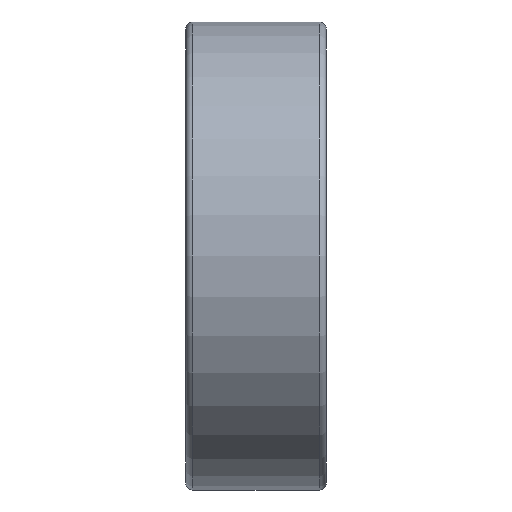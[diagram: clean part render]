
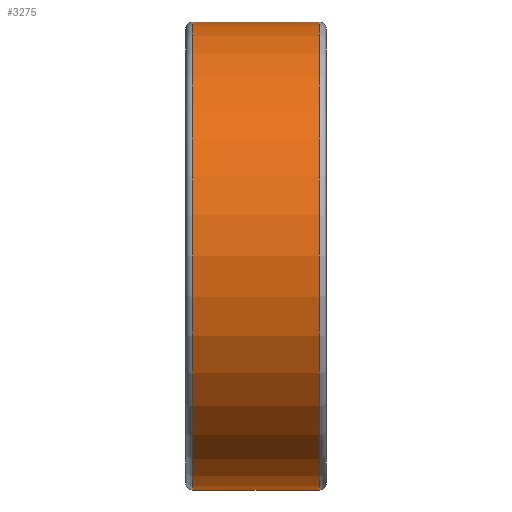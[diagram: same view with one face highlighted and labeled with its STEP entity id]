
A CAD part, front view. The second image highlights one B-rep face of the part: STEP entity #3275.
In plain terms, the highlighted cylindrical face has radius 20 mm (diameter 40 mm), a full revolution.
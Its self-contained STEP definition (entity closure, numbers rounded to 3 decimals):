
#289=LINE('',#5234,#548);
#548=VECTOR('',#4157,20.);
#805=CYLINDRICAL_SURFACE('',#3643,20.);
#884=FACE_OUTER_BOUND('',#1084,.T.);
#1084=EDGE_LOOP('',(#2426,#2427,#2428,#2429,#2430,#2431,#2432,#2433));
#1356=CIRCLE('',#3639,20.);
#1357=CIRCLE('',#3640,20.);
#1359=CIRCLE('',#3642,20.);
#1360=CIRCLE('',#3644,20.);
#1361=CIRCLE('',#3645,20.);
#1362=CIRCLE('',#3646,20.);
#1560=VERTEX_POINT('',#5220);
#1561=VERTEX_POINT('',#5221);
#1562=VERTEX_POINT('',#5223);
#1563=VERTEX_POINT('',#5228);
#1564=VERTEX_POINT('',#5229);
#1565=VERTEX_POINT('',#5231);
#1902=EDGE_CURVE('',#1560,#1561,#1356,.T.);
#1903=EDGE_CURVE('',#1562,#1560,#1357,.T.);
#1905=EDGE_CURVE('',#1561,#1562,#1359,.T.);
#1906=EDGE_CURVE('',#1563,#1564,#1360,.T.);
#1907=EDGE_CURVE('',#1565,#1563,#1361,.T.);
#1908=EDGE_CURVE('',#1564,#1565,#1362,.T.);
#1909=EDGE_CURVE('',#1564,#1561,#289,.T.);
#2426=ORIENTED_EDGE('',*,*,#1906,.F.);
#2427=ORIENTED_EDGE('',*,*,#1907,.F.);
#2428=ORIENTED_EDGE('',*,*,#1908,.F.);
#2429=ORIENTED_EDGE('',*,*,#1909,.T.);
#2430=ORIENTED_EDGE('',*,*,#1905,.T.);
#2431=ORIENTED_EDGE('',*,*,#1903,.T.);
#2432=ORIENTED_EDGE('',*,*,#1902,.T.);
#2433=ORIENTED_EDGE('',*,*,#1909,.F.);
#3275=ADVANCED_FACE('',(#884),#805,.T.);
#3639=AXIS2_PLACEMENT_3D('',#5222,#4141,#4142);
#3640=AXIS2_PLACEMENT_3D('',#5224,#4143,#4144);
#3642=AXIS2_PLACEMENT_3D('',#5226,#4147,#4148);
#3643=AXIS2_PLACEMENT_3D('',#5227,#4149,#4150);
#3644=AXIS2_PLACEMENT_3D('',#5230,#4151,#4152);
#3645=AXIS2_PLACEMENT_3D('',#5232,#4153,#4154);
#3646=AXIS2_PLACEMENT_3D('',#5233,#4155,#4156);
#4141=DIRECTION('center_axis',(-1.,0.,0.));
#4142=DIRECTION('ref_axis',(0.,0.,1.));
#4143=DIRECTION('center_axis',(-1.,0.,0.));
#4144=DIRECTION('ref_axis',(0.,0.,1.));
#4147=DIRECTION('center_axis',(-1.,0.,0.));
#4148=DIRECTION('ref_axis',(0.,0.,1.));
#4149=DIRECTION('center_axis',(-1.,0.,0.));
#4150=DIRECTION('ref_axis',(0.,-1.,0.));
#4151=DIRECTION('center_axis',(-1.,0.,0.));
#4152=DIRECTION('ref_axis',(0.,0.,1.));
#4153=DIRECTION('center_axis',(-1.,0.,0.));
#4154=DIRECTION('ref_axis',(0.,0.,1.));
#4155=DIRECTION('center_axis',(-1.,0.,0.));
#4156=DIRECTION('ref_axis',(0.,0.,1.));
#4157=DIRECTION('',(1.,0.,0.));
#5220=CARTESIAN_POINT('',(8.65,-20.,0.));
#5221=CARTESIAN_POINT('',(8.65,20.,0.));
#5222=CARTESIAN_POINT('Origin',(8.65,0.,0.));
#5223=CARTESIAN_POINT('',(8.65,0.,-20.));
#5224=CARTESIAN_POINT('Origin',(8.65,0.,0.));
#5226=CARTESIAN_POINT('Origin',(8.65,0.,0.));
#5227=CARTESIAN_POINT('Origin',(3.25,0.,0.));
#5228=CARTESIAN_POINT('',(-2.15,-20.,0.));
#5229=CARTESIAN_POINT('',(-2.15,20.,0.));
#5230=CARTESIAN_POINT('Origin',(-2.15,0.,0.));
#5231=CARTESIAN_POINT('',(-2.15,0.,-20.));
#5232=CARTESIAN_POINT('Origin',(-2.15,0.,0.));
#5233=CARTESIAN_POINT('Origin',(-2.15,0.,0.));
#5234=CARTESIAN_POINT('',(3.25,20.,0.));
